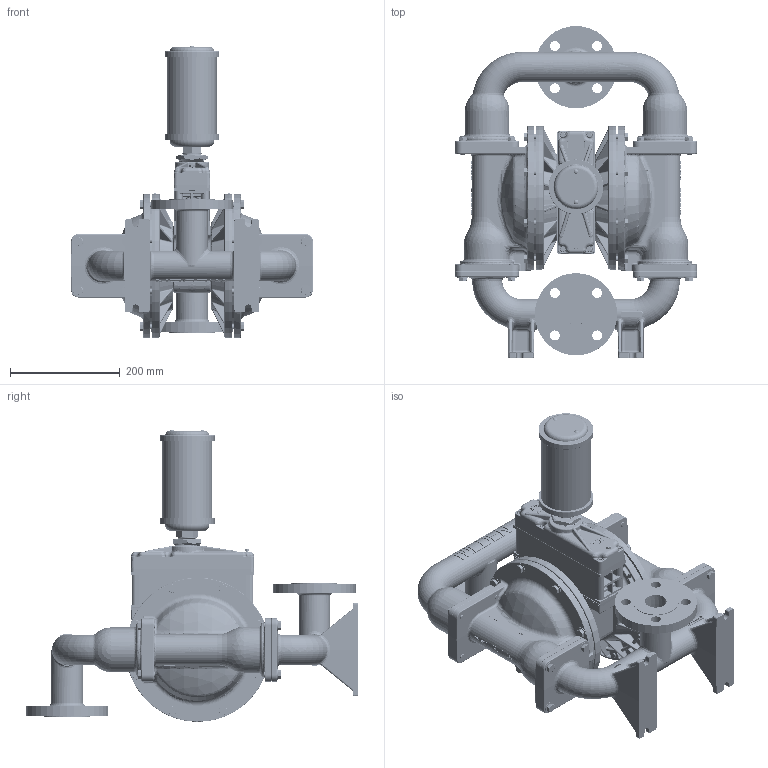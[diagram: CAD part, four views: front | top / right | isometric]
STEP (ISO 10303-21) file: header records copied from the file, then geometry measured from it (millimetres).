
FILE_DESCRIPTION (( 'STEP AP203' ), '1' );
FILE_NAME ('PS430_ALUM_TOP_DIN.STEP', '2022-06-08T05:25:45', ( '' ), ( '' ), 'SwSTEP 2.0', 'SolidWorks 2019', '' );
FILE_SCHEMA (( 'CONFIG_CONTROL_DESIGN' ));
Length unit declared in the file: inch
Products named in the file (1): PS430_ALUM_TOP_DIN
Bounding box: 442.46 x 605.94 x 533.51 mm (x, y, z)
Volume: 16849360.3 mm3; surface area: 1251496.8 mm2
Topology: 1 solids, 1 shells, 12604 faces, 32046 edges, 19883 vertices
Faces by surface type: plane 6573, cylinder 2155, bspline 1506, torus 1086, cone 904, sphere 380
Entity records: 550690 total; most frequent: CARTESIAN_POINT 267442, ORIENTED_EDGE 63894, DIRECTION 51865, EDGE_CURVE 31947, VERTEX_POINT 19865, AXIS2_PLACEMENT_3D 17350, LINE 17165, VECTOR 17165
